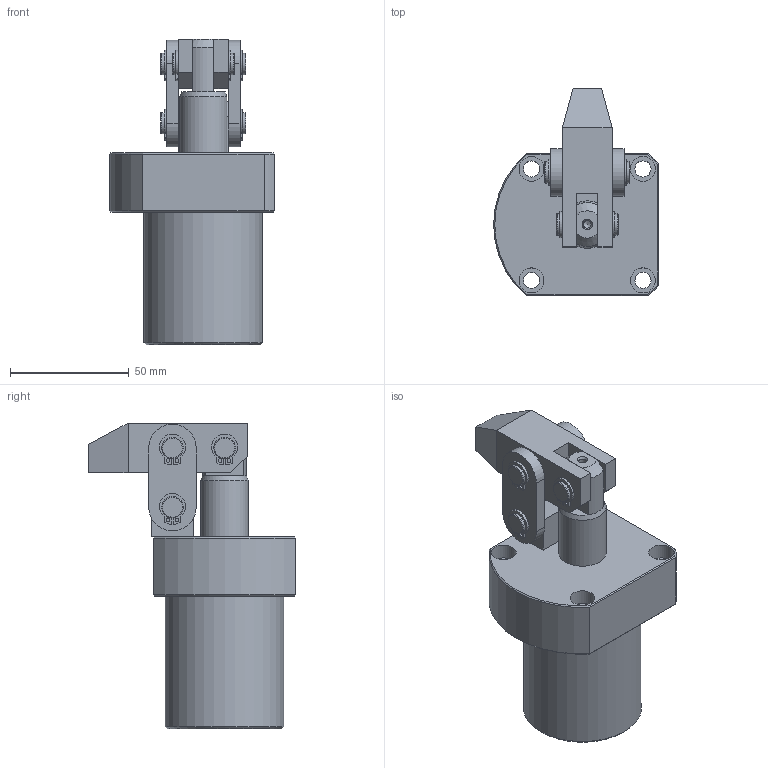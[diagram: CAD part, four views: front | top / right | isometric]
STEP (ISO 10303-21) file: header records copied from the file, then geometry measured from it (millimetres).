
FILE_DESCRIPTION(/* description */ ('Unknown'),/* implementation_level */ '2;1');
FILE_NAME(/* name */ 'HLB-FAM32-L-A',/* time_stamp */ '2025-06-05T03:09:13+08:00',/* author */ ('Unknown'),/* organization */ ('Unknown'),/* preprocessor_version */ 'ST-DEVELOPER v16.7',/* originating_system */ 'DEX',/* authorisation */ $);
FILE_SCHEMA (('AUTOMOTIVE_DESIGN {1 0 10303 214 3 1 1}'));
Length unit declared in the file: millimetre
Products named in the file (8): HLB-FAM32-L-A; HLB-FAM32-L-CYLINDER; HLB-32-¹ÔeRefs; HLB-32-A; HLB-3202-AXLE CENTRE; HLB-32-PINªø“á?; HLB-32-PINµu; HLB-32-C扣
Assembly tree (14 placements, depth 2):
  HLB-FAM32-L-A
    HLB-FAM32-L-CYLINDER
    HLB-32-¹ÔeRefs  x2
    HLB-32-A
    HLB-3202-AXLE CENTRE
    HLB-32-PINªø“á?  x2
    HLB-32-PINµu
    HLB-32-C扣  x6
Bounding box: 69.5 x 87.5 x 129 mm (x, y, z)
Volume: 232706.6 mm3; surface area: 56300.5 mm2
Topology: 14 solids, 14 shells, 254 faces, 590 edges, 391 vertices
Faces by surface type: plane 117, cylinder 113, cone 16, torus 8
Full cylindrical faces by diameter (mm): 1.575 x12, 2.5 x2, 3.2 x1, 4.1 x2, 6.8 x4, 8.5 x10, 9 x14, 10 x2, 10.5 x4, 20 x2, 32 x2, 50 x1
Entity records: 4128 total; most frequent: DIRECTION 711, CARTESIAN_POINT 696, ORIENTED_EDGE 528, AXIS2_PLACEMENT_3D 299, EDGE_CURVE 264, FACE_BOUND 256, EDGE_LOOP 255, VERTEX_POINT 202
